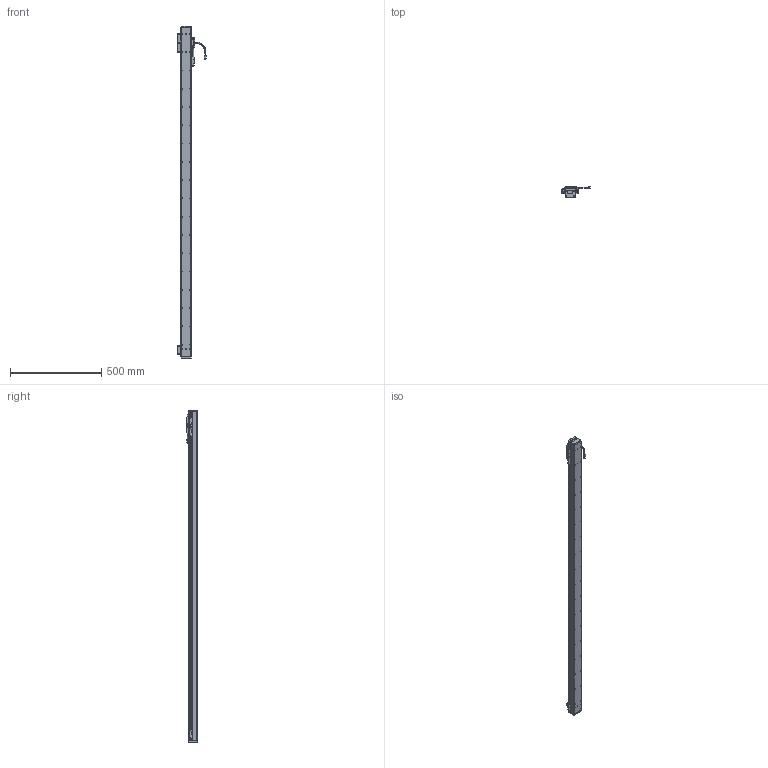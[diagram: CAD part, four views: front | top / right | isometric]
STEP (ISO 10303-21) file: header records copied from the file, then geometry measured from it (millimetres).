
FILE_DESCRIPTION(('Open CASCADE Model'),'2;1');
FILE_NAME('Open CASCADE Shape Model','2025-11-07T00:55:18',('Author'),( 'Open CASCADE'),'Open CASCADE STEP processor 7.6','Open CASCADE 7.6' ,'Unknown');
FILE_SCHEMA(('AUTOMOTIVE_DESIGN { 1 0 10303 214 1 1 1 1 }'));
Length unit declared in the file: millimetre
Products named in the file (25): Open CASCADE STEP translator 7.6 50; Open CASCADE STEP translator 7.6 50.1; Open CASCADE STEP translator 7.6 50.2; Open CASCADE STEP translator 7.6 50.3; Open CASCADE STEP translator 7.6 50.4; Open CASCADE STEP translator 7.6 50.5; Open CASCADE STEP translator 7.6 50.6; Open CASCADE STEP translator 7.6 50.7; Open CASCADE STEP translator 7.6 50.8; Open CASCADE STEP translator 7.6 50.9; Open CASCADE STEP translator 7.6 50.10; Open CASCADE STEP translator 7.6 50.11; Open CASCADE STEP translator 7.6 50.12; Open CASCADE STEP translator 7.6 50.13; Open CASCADE STEP translator 7.6 50.14; Open CASCADE STEP translator 7.6 50.14.1; Open CASCADE STEP translator 7.6 50.14.1.1; Open CASCADE STEP translator 7.6 50.14.1.2; Open CASCADE STEP translator 7.6 50.14.1.3; Open CASCADE STEP translator 7.6 50.14.1.4; Open CASCADE STEP translator 7.6 50.14.1.5; Open CASCADE STEP translator 7.6 50.15; Open CASCADE STEP translator 7.6 50.16; Open CASCADE STEP translator 7.6 50.17; Open CASCADE STEP translator 7.6 50.18
Assembly tree (24 placements, depth 4):
  Open CASCADE STEP translator 7.6 50
    Open CASCADE STEP translator 7.6 50.1
    Open CASCADE STEP translator 7.6 50.2
    Open CASCADE STEP translator 7.6 50.3
    Open CASCADE STEP translator 7.6 50.4
    Open CASCADE STEP translator 7.6 50.5
    Open CASCADE STEP translator 7.6 50.6
    Open CASCADE STEP translator 7.6 50.7
    Open CASCADE STEP translator 7.6 50.8
    Open CASCADE STEP translator 7.6 50.9
    Open CASCADE STEP translator 7.6 50.10
    Open CASCADE STEP translator 7.6 50.11
    Open CASCADE STEP translator 7.6 50.12
    Open CASCADE STEP translator 7.6 50.13
    Open CASCADE STEP translator 7.6 50.14
      Open CASCADE STEP translator 7.6 50.14.1
        Open CASCADE STEP translator 7.6 50.14.1.1
        Open CASCADE STEP translator 7.6 50.14.1.2
        Open CASCADE STEP translator 7.6 50.14.1.3
        Open CASCADE STEP translator 7.6 50.14.1.4
        Open CASCADE STEP translator 7.6 50.14.1.5
    Open CASCADE STEP translator 7.6 50.15
    Open CASCADE STEP translator 7.6 50.16
    Open CASCADE STEP translator 7.6 50.17
    Open CASCADE STEP translator 7.6 50.18
Bounding box: 158 x 60 x 1816 mm (x, y, z)
Volume: 4824371.6 mm3; surface area: 550797.5 mm2
Topology: 22 solids, 23 shells, 1999 faces, 4977 edges, 3160 vertices
Faces by surface type: plane 1003, cylinder 784, bspline 112, cone 84, torus 16
Entity records: 151558 total; most frequent: CARTESIAN_POINT 53589, DIRECTION 18014, LINE 10847, VECTOR 10847, ORIENTED_EDGE 9820, PCURVE 9820, DEFINITIONAL_REPRESENTATION 9820, EDGE_CURVE 4910
